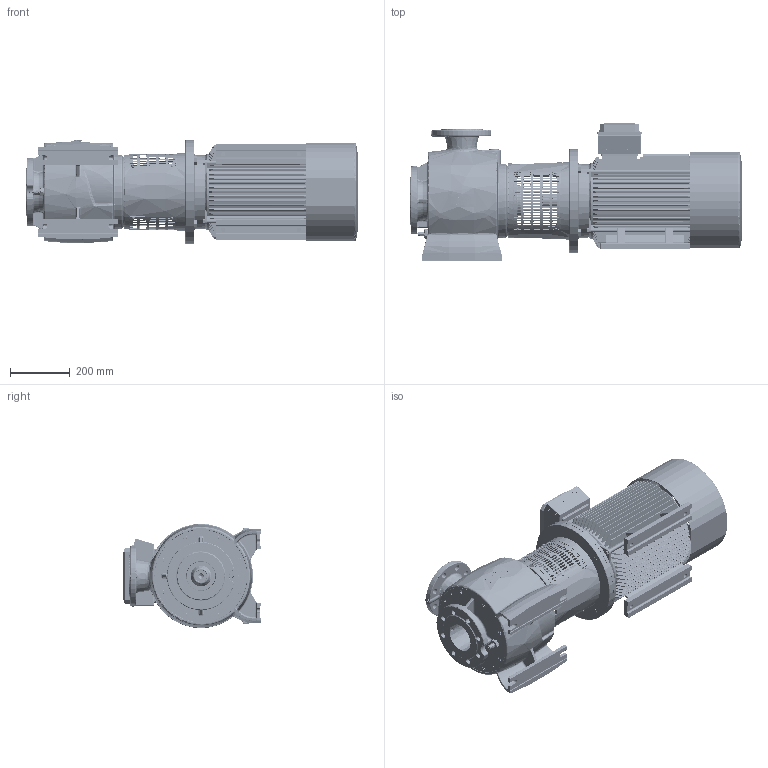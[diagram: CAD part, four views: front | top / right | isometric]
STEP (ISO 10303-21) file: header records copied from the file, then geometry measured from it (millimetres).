
FILE_DESCRIPTION((''),'2;1');
FILE_NAME('S100-80_175N_A02_160_ASM','2019-09-27T',('BRHE'),(''),'PRO/ENGINEER BY PARAMETRIC TECHNOLOGY CORPORATION, 2017170','PRO/ENGINEER BY PARAMETRIC TECHNOLOGY CORPORATION, 2017170','');
FILE_SCHEMA(('CONFIG_CONTROL_DESIGN'));
Products named in the file (36): 517900; 517630; 674626_ASM; 704186; 702850; 703636; 702866; 704188; 110371; 705392; 673190_ASM; 704367; 708119; 711381; 674624_ASM; 516014; 510880; 704029; 704027; 510740; 510760; 703335; 110554; 706717; 704047_AF0; 704048_AF0; 1849417; 674773_ASM; 674620_ASM; 110533; 704016; 700323; 700416; 672119_ASM; 842425; S100-80_175N_A02_160_ASM
Assembly tree (75 placements, depth 6):
  S100-80_175N_A02_160_ASM
    674620_ASM
      674773_ASM
        674624_ASM
          517900
          674626_ASM
            517630
          704186  x2
          702850  x2
          703636
          702866
          704188
          673190_ASM
            110371
            705392
          704367  x8
          708119
          711381  x2
        516014
        510880
        704029
        704027
        510740
        704367  x4
        510760
        703335  x8
        110554  x2
        706717  x8
        704047_AF0
        704048_AF0
        1849417  x2
    672119_ASM
      110533
      704016  x8
      700323  x4
      700416
    842425
Bounding box: 1113.7 x 460 x 350 mm (x, y, z)
Volume: 40430363.4 mm3; surface area: 4918501.8 mm2
Topology: 80 solids, 137 shells, 7791 faces, 19764 edges, 12341 vertices
Faces by surface type: plane 2460, bspline 1823, cylinder 1769, torus 642, cone 618, sphere 261, extrusion 218
Entity records: 336018 total; most frequent: CARTESIAN_POINT 186055, ORIENTED_EDGE 33312, DIRECTION 27658, EDGE_CURVE 16762, AXIS2_PLACEMENT_3D 10525, VERTEX_POINT 10431, EDGE_LOOP 7353, FACE_OUTER_BOUND 6631
